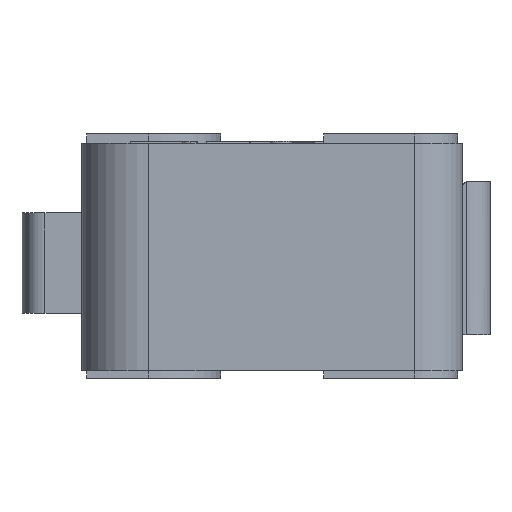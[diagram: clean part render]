
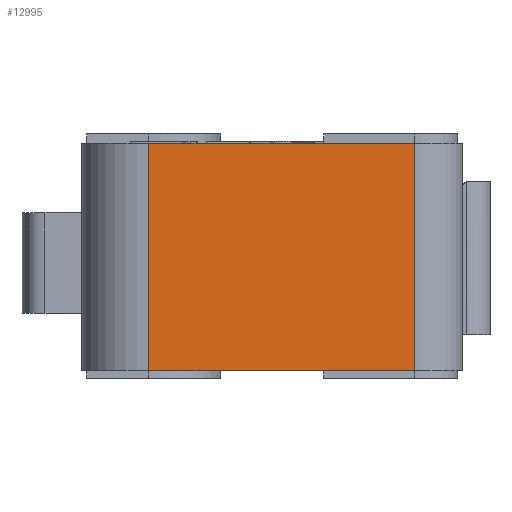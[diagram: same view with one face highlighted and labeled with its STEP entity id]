
A CAD part, left-side view. The second image highlights one B-rep face of the part: STEP entity #12995.
In plain terms, the highlighted planar face has unit normal (-1, 0, 0).
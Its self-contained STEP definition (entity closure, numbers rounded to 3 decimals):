
#2451=DIRECTION('',(0.,0.,-1.));
#2452=VECTOR('',#2451,9.5);
#2453=CARTESIAN_POINT('',(-27.322,8.207,4.8));
#2454=LINE('',#2453,#2452);
#2455=DIRECTION('',(0.,-1.,0.));
#2456=VECTOR('',#2455,11.1);
#2457=CARTESIAN_POINT('',(-27.322,8.207,4.8));
#2458=LINE('',#2457,#2456);
#2459=DIRECTION('',(0.,0.,1.));
#2460=VECTOR('',#2459,9.5);
#2461=CARTESIAN_POINT('',(-27.322,-2.893,
-4.7));
#2462=LINE('',#2461,#2460);
#2914=DIRECTION('',(0.,-1.,0.));
#2915=VECTOR('',#2914,11.1);
#2916=CARTESIAN_POINT('',(-27.322,8.207,
-4.7));
#2917=LINE('',#2916,#2915);
#9451=CARTESIAN_POINT('',(-27.322,-2.893,
4.8));
#9452=VERTEX_POINT('',#9451);
#9453=CARTESIAN_POINT('',(-27.322,8.207,4.8));
#9454=VERTEX_POINT('',#9453);
#10203=CARTESIAN_POINT('',(-27.322,8.207,
-4.7));
#10204=VERTEX_POINT('',#10203);
#10205=CARTESIAN_POINT('',(-27.322,-2.893,
-4.7));
#10206=VERTEX_POINT('',#10205);
#12982=CARTESIAN_POINT('',(-27.322,11.007,
-4.7));
#12983=DIRECTION('',(-1.,0.,0.));
#12984=DIRECTION('',(0.,-1.,0.));
#12985=AXIS2_PLACEMENT_3D('',#12982,#12983,#12984);
#12986=PLANE('',#12985);
#12987=ORIENTED_EDGE('',*,*,#12975,.F.);
#12988=ORIENTED_EDGE('',*,*,#12041,.T.);
#12990=ORIENTED_EDGE('',*,*,#12989,.F.);
#12992=ORIENTED_EDGE('',*,*,#12991,.F.);
#12993=EDGE_LOOP('',(#12987,#12988,#12990,#12992));
#12994=FACE_OUTER_BOUND('',#12993,.F.);
#12995=ADVANCED_FACE('',(#12994),#12986,.T.);
#12041=EDGE_CURVE('',#9454,#9452,#2458,.T.);
#12975=EDGE_CURVE('',#9454,#10204,#2454,.T.);
#12989=EDGE_CURVE('',#10206,#9452,#2462,.T.);
#12991=EDGE_CURVE('',#10204,#10206,#2917,.T.);
